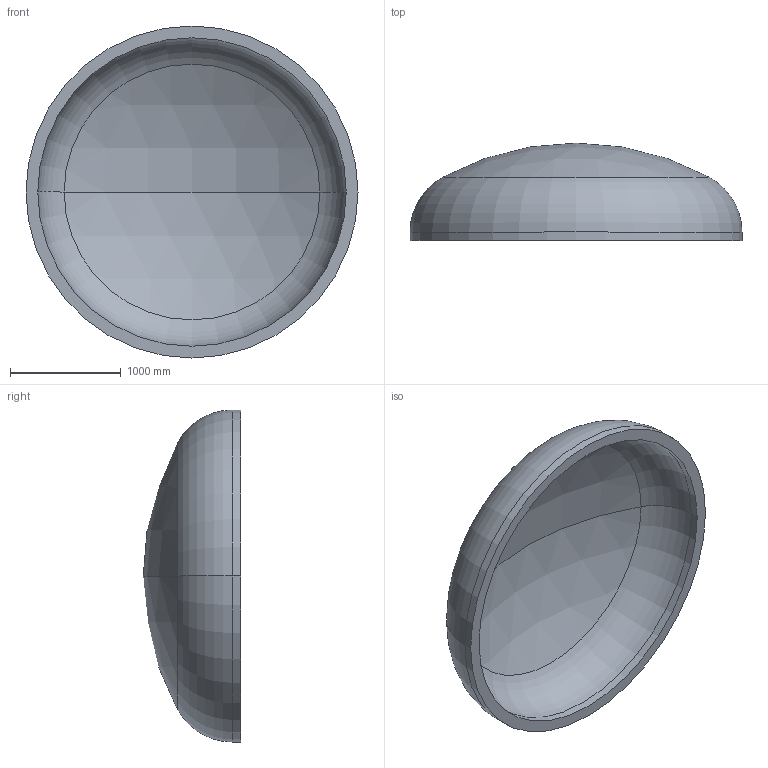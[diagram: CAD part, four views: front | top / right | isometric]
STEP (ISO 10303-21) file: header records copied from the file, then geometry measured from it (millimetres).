
FILE_DESCRIPTION (( 'STEP AP203' ), '1' );
FILE_NAME ('DIN 28013 Korbbogenform_-_Boden DIN 28013 - 3000 x 75 - I - s=106.step', '2016-07-01T18:08:45', ( '' ), ( '' ), 'SwSTEP 2.0', 'SolidWorks 2013', '' );
FILE_SCHEMA (( 'CONFIG_CONTROL_DESIGN' ));
Length unit declared in the file: millimetre
Products named in the file (1): DIN 28013 Korbbogenform_-_Boden DIN 28013 - 3000 x 75 - I - s=106
Bounding box: 3000 x 880.63 x 3000 mm (x, y, z)
Volume: 1062528424.1 mm3; surface area: 21034959.7 mm2
Topology: 1 solids, 1 shells, 13 faces, 24 edges, 14 vertices
Faces by surface type: torus 4, cylinder 4, sphere 4, plane 1
Entity records: 407 total; most frequent: DIRECTION 72, CARTESIAN_POINT 52, ORIENTED_EDGE 48, AXIS2_PLACEMENT_3D 34, EDGE_CURVE 24, CIRCLE 20, VERTEX_POINT 14, EDGE_LOOP 14
